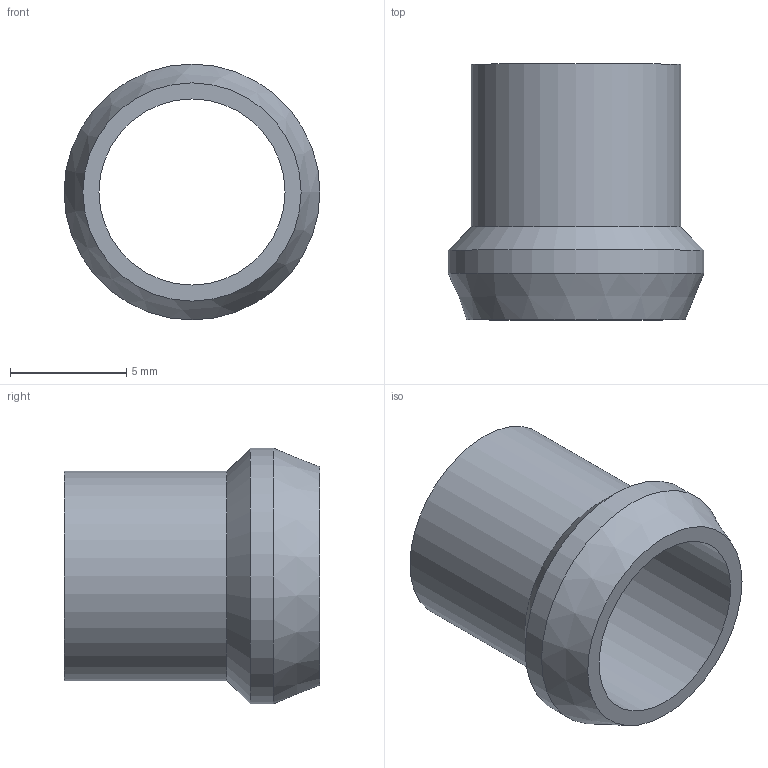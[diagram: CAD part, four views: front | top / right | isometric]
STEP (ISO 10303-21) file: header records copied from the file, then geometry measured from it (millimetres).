
FILE_DESCRIPTION(/* description */ (''),/* implementation_level */ '2;1');
FILE_NAME(/* name */ 'D:\CDC pneumatics\inventor\two touch fitting BSBM\CSM\CSM 08.stp',/* time_stamp */ '2015-10-01T14:03:16+09:00',/* author */ ('DIAMOND'),/* organization */ (''),/* preprocessor_version */ 'ST-DEVELOPER v15.6',/* originating_system */ 'Autodesk Inventor 2015',/* authorisation */ '');
FILE_SCHEMA (('AUTOMOTIVE_DESIGN { 1 0 10303 214 3 1 1 }'));
Length unit declared in the file: millimetre
Products named in the file (1): CSM 08
Bounding box: 11 x 11 x 11 mm (x, y, z)
Volume: 229.7 mm3; surface area: 654.7 mm2
Topology: 1 solids, 1 shells, 7 faces, 12 edges, 7 vertices
Faces by surface type: cylinder 3, cone 2, plane 2
Full cylindrical faces by diameter (mm): 8 x1, 9 x1, 11 x1
Entity records: 172 total; most frequent: DIRECTION 30, CARTESIAN_POINT 22, AXIS2_PLACEMENT_3D 15, EDGE_LOOP 14, ORIENTED_EDGE 14, FACE_BOUND 7, FACE_OUTER_BOUND 7, CIRCLE 7
